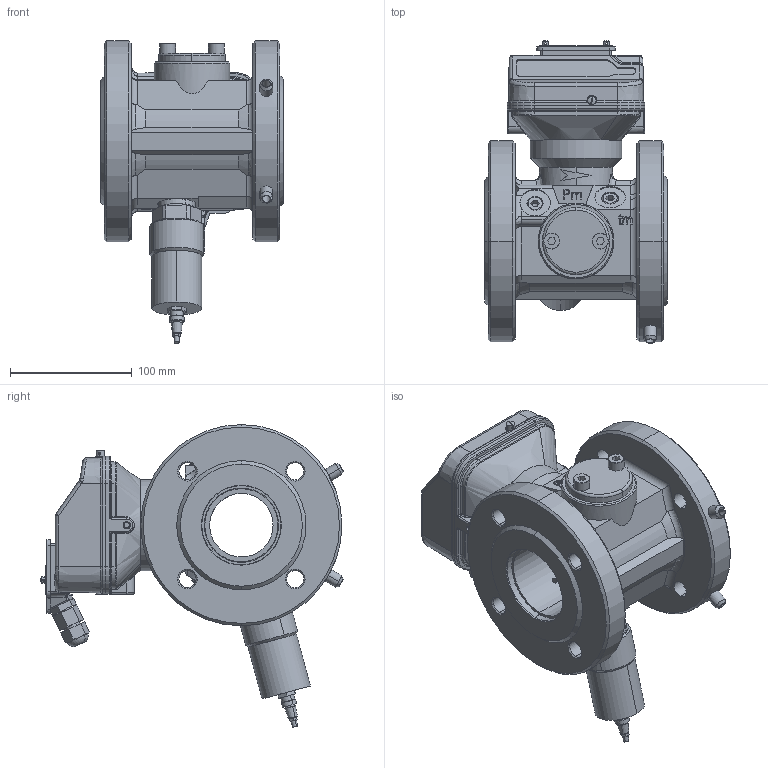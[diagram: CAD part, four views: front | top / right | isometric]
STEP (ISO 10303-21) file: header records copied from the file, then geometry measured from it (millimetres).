
FILE_DESCRIPTION (( 'STEP AP214' ), '1' );
FILE_NAME ('TBQM-G65-DN50-PN16 (áåç ìàñëÿíîãî íàñîñà)++++.STEP', '2023-08-04T08:00:24', ( '' ), ( '' ), 'SwSTEP 2.0', 'SolidWorks 2022', '' );
FILE_SCHEMA (( 'AUTOMOTIVE_DESIGN' ));
Length unit declared in the file: millimetre
Products named in the file (1): TBQM-G65-DN50-PN16 (без масляного насоса)++++
Bounding box: 150 x 248.03 x 248.29 mm (x, y, z)
Volume: 1823662.1 mm3; surface area: 361847.2 mm2
Topology: 26 solids, 28 shells, 1885 faces, 4622 edges, 2829 vertices
Faces by surface type: cylinder 685, plane 659, bspline 272, cone 231, torus 22, sphere 16
Entity records: 73943 total; most frequent: CARTESIAN_POINT 31022, ORIENTED_EDGE 9138, DIRECTION 8494, EDGE_CURVE 4569, AXIS2_PLACEMENT_3D 3130, VERTEX_POINT 2829, LINE 2234, VECTOR 2234
